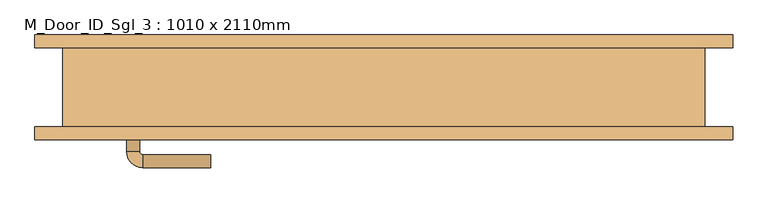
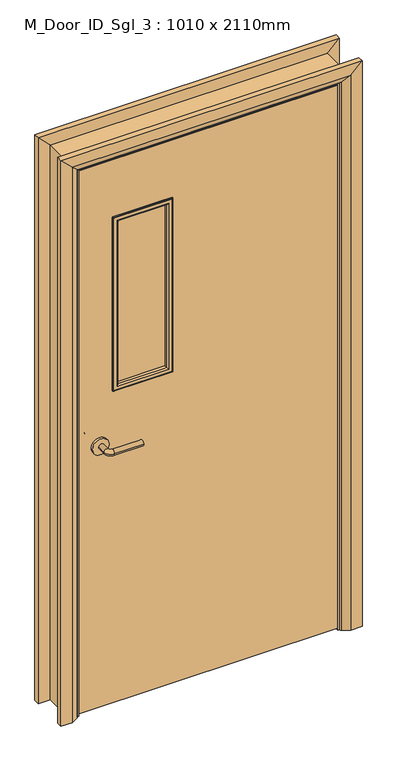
"""IFC4 building model written with IfcOpenShell, lengths in millimetres: door geometry, M_Door_ID_Sgl_3 : 1010 x 2110mm."""

import ifcopenshell
import ifcopenshell.guid

model = None  # the IFC model being written
_history = None  # IfcOwnerHistory: only IFC2X3 demands one
_inside = {}  # id of a spatial element -> (the spatial element, [elements in it])
_under = {}  # id of a project, library or spatial element -> (it, [spatial elements below it])
_declared = {}  # id of a project -> (the project, [libraries it declares])
_typed = {}  # id of a type object -> (the type object, [elements of that type])
_made_of = {}  # id of a material, layer set ... -> (it, [elements and type objects made of it])


def new_model(schema):
    """Start an empty IFC model of exactly this schema.

    Asked for "IFC4X3", IfcOpenShell would pick the latest addendum, in which some entities
    have other attributes; the version numbers below select the first issue.
    IFC2X3 requires an IfcOwnerHistory on every rooted entity: one is made here for all.
    """
    global model, _history
    if schema == "IFC4X3":
        model = ifcopenshell.file(schema_version=(4, 3, 0, 0))
    else:
        model = ifcopenshell.file(schema=schema)
    _inside.clear()
    _under.clear()
    _declared.clear()
    _typed.clear()
    _made_of.clear()
    _history = None
    if model.schema == "IFC2X3":
        org = make("IfcOrganization", Name="unknown")
        user = make(
            "IfcPersonAndOrganization",
            ThePerson=make("IfcPerson", FamilyName="unknown"),
            TheOrganization=org,
        )
        app = make(
            "IfcApplication",
            ApplicationDeveloper=org,
            Version="unknown",
            ApplicationFullName="unknown",
            ApplicationIdentifier="unknown",
        )
        _history = make(
            "IfcOwnerHistory",
            OwningUser=user,
            OwningApplication=app,
            ChangeAction="ADDED",
            CreationDate=0,
        )
    return model


def make(cls, **values):
    """One entity of the class cls with the attributes given. An attribute that is None is left unset."""
    return model.create_entity(
        cls, **{name: value for name, value in values.items() if value is not None}
    )


def rooted(cls, **values):
    """An entity with a GlobalId (a new one), such as an element, a storey or a relation."""
    return make(cls, GlobalId=ifcopenshell.guid.new(), OwnerHistory=_history, **values)


def si_unit(unit_type, name, prefix=None):
    """IfcSIUnit, for example si_unit("LENGTHUNIT", "METRE", prefix="MILLI")."""
    return make("IfcSIUnit", UnitType=unit_type, Prefix=prefix, Name=name)


def assignment(units):
    """IfcUnitAssignment: the units of a project."""
    return None if units is None else make("IfcUnitAssignment", Units=units)


def point(xyz):
    """IfcCartesianPoint."""
    return None if xyz is None else make("IfcCartesianPoint", Coordinates=xyz)


def direction(xyz):
    """IfcDirection."""
    return None if xyz is None else make("IfcDirection", DirectionRatios=xyz)


def frame(location, z_axis=None, x_axis=None):
    """IfcAxis2Placement3D, a coordinate frame: its origin and axes. An axis left out is left unset."""
    return make(
        "IfcAxis2Placement3D",
        Location=point(location),
        Axis=direction(z_axis),
        RefDirection=direction(x_axis),
    )


def frame_2d(location, x_axis=None):
    """IfcAxis2Placement2D, a coordinate frame in the plane: its origin and x axis."""
    return make(
        "IfcAxis2Placement2D", Location=point(location), RefDirection=direction(x_axis)
    )


def origin():
    """The frame at (0, 0, 0) with its axes left unset."""
    return frame((0.0, 0.0, 0.0))


def place(relative_to, where):
    """IfcLocalPlacement: puts the frame where relative to a parent placement (None: the world)."""
    return make(
        "IfcLocalPlacement", PlacementRelTo=relative_to, RelativePlacement=where
    )


def context(
    kind, dimensions, precision=None, world=None, true_north=None, identifier=None
):
    """IfcGeometricRepresentationContext, for example the 3D "Model" context."""
    return make(
        "IfcGeometricRepresentationContext",
        ContextIdentifier=identifier,
        ContextType=kind,
        CoordinateSpaceDimension=dimensions,
        Precision=precision,
        WorldCoordinateSystem=world,
        TrueNorth=true_north,
    )


def project(units=None, contexts=None):
    """IfcProject with its units and contexts."""
    return rooted(
        "IfcProject",
        Name="project",
        RepresentationContexts=contexts,
        UnitsInContext=assignment(units),
    )


def spatial(cls, under=None, at=None, **own):
    """A site, building, storey or space (cls), placed at a placement, below another one or the project."""
    s = rooted(cls, ObjectPlacement=at, **own)
    if under is not None:
        _under.setdefault(under.id(), (under, []))[1].append(s)
    return s


def polyline(points):
    """IfcPolyline through the points."""
    return make("IfcPolyline", Points=[point(p) for p in points])


def circle_curve(where, radius):
    """IfcCircle in the frame where."""
    return make("IfcCircle", Position=where, Radius=radius)


def ellipse_curve(where, semi_axis1, semi_axis2):
    """IfcEllipse in the frame where."""
    return make(
        "IfcEllipse", Position=where, SemiAxis1=semi_axis1, SemiAxis2=semi_axis2
    )


def trimmed(basis, trim1, trim2, sense, master):
    """IfcTrimmedCurve: the piece of a basis curve between two trims."""
    return make(
        "IfcTrimmedCurve",
        BasisCurve=basis,
        Trim1=trim1,
        Trim2=trim2,
        SenseAgreement=sense,
        MasterRepresentation=master,
    )


def segment(curve, same_sense, transition):
    """IfcCompositeCurveSegment."""
    return make(
        "IfcCompositeCurveSegment",
        Transition=transition,
        SameSense=same_sense,
        ParentCurve=curve,
    )


def composite_curve(segments, self_intersect=None):
    """IfcCompositeCurve: segments joined end to end."""
    return make("IfcCompositeCurve", Segments=segments, SelfIntersect=self_intersect)


def outline(outer, holes=None, kind="AREA"):
    """IfcArbitraryClosedProfileDef: a profile drawn as a closed curve; with holes, ...WithVoids."""
    if holes is None:
        return make("IfcArbitraryClosedProfileDef", ProfileType=kind, OuterCurve=outer)
    return make(
        "IfcArbitraryProfileDefWithVoids",
        ProfileType=kind,
        OuterCurve=outer,
        InnerCurves=holes,
    )


def extrude(swept, where, along, depth):
    """IfcExtrudedAreaSolid: the profile swept, set in the frame where, extruded along a direction by depth."""
    return make(
        "IfcExtrudedAreaSolid",
        SweptArea=swept,
        Position=where,
        ExtrudedDirection=direction(along),
        Depth=depth,
    )


def faces_of(points, faces, orient=None, outer=None):
    """IfcFace entities. A face is a list of loops; a loop is a list of indices into points, from 0.

    orient and outer hold one flag for each loop. By default every Orientation is true, the
    first loop of a face is its IfcFaceOuterBound and the others are IfcFaceBound.
    """
    made = []
    for i, loops in enumerate(faces):
        bounds = []
        for j, loop in enumerate(loops):
            is_outer = j == 0 if outer is None else outer[i][j]
            bounds.append(
                make(
                    "IfcFaceOuterBound" if is_outer else "IfcFaceBound",
                    Bound=make("IfcPolyLoop", Polygon=[points[k] for k in loop]),
                    Orientation=True if orient is None else orient[i][j],
                )
            )
        made.append(make("IfcFace", Bounds=bounds))
    return made


def faceted_brep(points, faces, orient=None, outer=None, voids=None):
    """IfcFacetedBrep: a solid bounded by flat faces; with voids (closed shells), ...WithVoids."""
    shared = [point(p) for p in points]
    hull = make("IfcClosedShell", CfsFaces=faces_of(shared, faces, orient, outer))
    if voids is None:
        return make("IfcFacetedBrep", Outer=hull)
    return make(
        "IfcFacetedBrepWithVoids",
        Outer=hull,
        Voids=[
            make(cls, CfsFaces=faces_of(shared, fs, o, b)) for cls, fs, o, b in voids
        ],
    )


def shape(context_of_items, identifier, shape_type, items):
    """IfcShapeRepresentation: the items that make up one representation, for example the "Body"."""
    return make(
        "IfcShapeRepresentation",
        ContextOfItems=context_of_items,
        RepresentationIdentifier=identifier,
        RepresentationType=shape_type,
        Items=items,
    )


def source(mapping_origin, context_of_items, identifier, shape_type, items):
    """IfcRepresentationMap: a shape defined once, which mapped items show again and again."""
    return make(
        "IfcRepresentationMap",
        MappingOrigin=mapping_origin,
        MappedRepresentation=shape(context_of_items, identifier, shape_type, items),
    )


def transform(
    local_origin,
    x_axis=None,
    y_axis=None,
    z_axis=None,
    scale=None,
    scale2=None,
    scale3=None,
    uniform=True,
):
    """IfcCartesianTransformationOperator3D, or its non-uniform kind. x_axis, y_axis, z_axis: its Axis1, 2, 3."""
    if uniform:
        return make(
            "IfcCartesianTransformationOperator3D",
            Axis1=direction(x_axis),
            Axis2=direction(y_axis),
            LocalOrigin=point(local_origin),
            Scale=scale,
            Axis3=direction(z_axis),
        )
    return make(
        "IfcCartesianTransformationOperator3DnonUniform",
        Axis1=direction(x_axis),
        Axis2=direction(y_axis),
        LocalOrigin=point(local_origin),
        Scale=scale,
        Axis3=direction(z_axis),
        Scale2=scale2,
        Scale3=scale3,
    )


def mapped(mapping_source, mapping_target):
    """IfcMappedItem: shows the shape of a source again, moved by a transform."""
    return make(
        "IfcMappedItem", MappingSource=mapping_source, MappingTarget=mapping_target
    )


def made_of(thing, what):
    """Note that an element or type object is made of a material, layer set ...; save() writes the relation."""
    if what is not None:
        _made_of.setdefault(what.id(), (what, []))[1].append(thing)
    return thing


def element(
    cls,
    number,
    at=None,
    inside=None,
    cuts=None,
    type_object=None,
    material=None,
    context=None,
    identifier="Body",
    shape_type=None,
    held_by="IfcProductDefinitionShape",
    body=None,
    shapes=None,
    **own,
):
    """One element of the class cls, such as IfcWall. Its Tag is "e" and its number.

    at: its placement. inside: the storey or other place that contains it. cuts: it is an
    opening in that element (IfcRelVoidsElement). A single representation is given by context,
    identifier, shape_type and body (its items); several are given by shapes. held_by: the class
    of the entity that holds the representations. save() writes the other relations.
    """
    e = rooted(cls, Tag="e%d" % number, ObjectPlacement=at, **own)
    if body is not None:
        shapes = [shape(context, identifier, shape_type, body)]
    if shapes is not None:
        e.Representation = make(held_by, Representations=shapes)
    if inside is not None:
        _inside.setdefault(inside.id(), (inside, []))[1].append(e)
    if cuts is not None:
        rooted(
            "IfcRelVoidsElement", RelatingBuildingElement=cuts, RelatedOpeningElement=e
        )
    if type_object is not None:
        _typed.setdefault(type_object.id(), (type_object, []))[1].append(e)
    return made_of(e, material)


def aggregate(whole, parts):
    """IfcRelAggregates: a whole, such as a stair, and the parts it consists of."""
    return rooted("IfcRelAggregates", RelatingObject=whole, RelatedObjects=parts)


def save(model, path):
    """Write the relations noted so far, then the file.

    IfcRelAggregates (storeys below a building ...), IfcRelContainedInSpatialStructure (elements
    in a storey), IfcRelDefinesByType, IfcRelAssociatesMaterial and IfcRelDeclares: one each for
    every whole, place, type object, material and project.
    """
    for whole, parts in _under.values():
        aggregate(whole, parts)
    for where, things in _inside.values():
        rooted(
            "IfcRelContainedInSpatialStructure",
            RelatedElements=things,
            RelatingStructure=where,
        )
    for kind, things in _typed.values():
        rooted("IfcRelDefinesByType", RelatedObjects=things, RelatingType=kind)
    for what, things in _made_of.values():
        rooted("IfcRelAssociatesMaterial", RelatedObjects=things, RelatingMaterial=what)
    for by, libraries in _declared.values():
        rooted("IfcRelDeclares", RelatingContext=by, RelatedDefinitions=libraries)
    model.write(path)


def plane_surface(at):
    """IfcPlane: the flat surface through the origin of the frame at, square to its z axis."""
    return make("IfcPlane", Position=at)


def cylinder_surface(at, radius):
    """IfcCylindricalSurface: all points at the distance radius from the z axis of the frame at."""
    return make("IfcCylindricalSurface", Position=at, Radius=radius)


def revolved_surface(curve, axis_point, axis_direction):
    """IfcSurfaceOfRevolution: the curve turned about the line through axis_point along axis_direction."""
    return make(
        "IfcSurfaceOfRevolution",
        SweptCurve=make("IfcArbitraryOpenProfileDef", ProfileType="CURVE", Curve=curve),
        AxisPosition=make("IfcAxis1Placement", Location=point(axis_point), Axis=direction(axis_direction)),
    )


def advanced_brep(points, edges, surfaces, faces):
    """IfcAdvancedBrep: a solid bounded by faces that lie on surfaces and meet in shared edges.

    An edge is (start, end): straight between two places in points (the first is 0);
    or (start, end, curve); or (start, end, curve, False) where it runs against its curve.
    A face is (place in surfaces, loops), or (place, loops, False) where it looks against
    its surface's normal. A loop lists edges by number (the first is 1), with a minus sign
    where the edge is run from its end to its start. The first loop is the outer one.
    """
    corners = [point(p) for p in points]
    vertices = [make("IfcVertexPoint", VertexGeometry=c) for c in corners]
    made = []
    for start, end, *more in edges:
        made.append(
            make(
                "IfcEdgeCurve",
                EdgeStart=vertices[start],
                EdgeEnd=vertices[end],
                EdgeGeometry=more[0] if more else make("IfcPolyline", Points=[corners[start], corners[end]]),
                SameSense=more[1] if len(more) > 1 else True,
            )
        )
    hull = []
    for where, loops, *sense in faces:
        bounds = []
        for j, loop in enumerate(loops):
            ring = [make("IfcOrientedEdge", EdgeElement=made[abs(k) - 1], Orientation=k > 0) for k in loop]
            bounds.append(
                make(
                    "IfcFaceOuterBound" if j == 0 else "IfcFaceBound",
                    Bound=make("IfcEdgeLoop", EdgeList=ring),
                    Orientation=True,
                )
            )
        hull.append(make("IfcAdvancedFace", Bounds=bounds, FaceSurface=surfaces[where], SameSense=sense[0] if sense else True))
    return make("IfcAdvancedBrep", Outer=make("IfcClosedShell", CfsFaces=hull))


def m_door_id_sgl_3_1010_x_2110mm_404dcb10(model_context):
    return source(origin(), model_context, "Body", "SolidModel", [
        advanced_brep(
        [(-398.0, -15.0, 1000.0), (-378.0, -15.0, 1000.0), (-398.0, 15.0, 1000.0), (-378.0, 15.0, 1000.0), (-373.0, 20.0, 1000.0), (-373.0, 40.0, 1000.0), (-268.0, 40.0, 1000.0), (-268.0, 20.0, 1000.0)],
        [
            (0, 1, circle_curve(frame((-388.0, -15.0, 1000.0), z_axis=(0.0, -1.0, 0.0), x_axis=(1.0, 0.0, 0.0)), 10.0)),
            (1, 0, circle_curve(frame((-388.0, -15.0, 1000.0), z_axis=(0.0, -1.0, 0.0), x_axis=(1.0, 0.0, 0.0)), 10.0)),
            (0, 2),
            (2, 3, circle_curve(frame((-388.0, 15.0, 1000.0), z_axis=(0.0, -1.0, 0.0), x_axis=(1.0, 0.0, 0.0)), 10.0)),
            (3, 1),
            (3, 2, circle_curve(frame((-388.0, 15.0, 1000.0), z_axis=(0.0, -1.0, 0.0), x_axis=(1.0, 0.0, 0.0)), 10.0)),
            (4, 3, circle_curve(frame((-373.0, 15.0, 1000.0), z_axis=(0.0, 0.0, 1.0), x_axis=(-1.0, 0.0, 0.0)), 5.0)),
            (2, 5, circle_curve(frame((-373.0, 15.0, 1000.0), z_axis=(0.0, 0.0, -1.0), x_axis=(-1.0, 0.0, 0.0)), 25.0)),
            (5, 4, circle_curve(frame((-373.0, 30.0, 1000.0), z_axis=(-1.0, 0.0, 0.0), x_axis=(0.0, -1.0, 0.0)), 10.0)),
            (4, 5, circle_curve(frame((-373.0, 30.0, 1000.0), z_axis=(-1.0, 0.0, 0.0), x_axis=(0.0, -1.0, 0.0)), 10.0)),
            (6, 7, circle_curve(frame((-268.0, 30.0, 1000.0), z_axis=(1.0, 0.0, 0.0), x_axis=(0.0, -1.0, 0.0)), 10.0)),
            (7, 6, circle_curve(frame((-268.0, 30.0, 1000.0), z_axis=(1.0, 0.0, 0.0), x_axis=(0.0, -1.0, 0.0)), 10.0)),
            (5, 6),
            (7, 4),
        ],
        [
            plane_surface(frame((-388.0, -15.0, 1000.0), z_axis=(0.0, -1.0, 0.0), x_axis=(0.0, 0.0, 1.0))),
            cylinder_surface(frame((-388.0, -15.0, 1000.0), z_axis=(0.0, -1.0, 0.0), x_axis=(1.0, 0.0, 0.0)), 10.0),
            revolved_surface(trimmed(ellipse_curve(frame((-388.0, 15.0, 1000.0), z_axis=(0.0, -1.0, 0.0), x_axis=(1.0, 0.0, 0.0)), 10.0, 10.0), [point((-398.0, 15.0, 1000.0))], [point((-378.0, 15.0, 1000.0))], True, "CARTESIAN"), (-373.0, 15.0, 1000.0), (0.0, 0.0, -1.0)),
            revolved_surface(trimmed(ellipse_curve(frame((-388.0, 15.0, 1000.0), z_axis=(0.0, -1.0, 0.0), x_axis=(1.0, 0.0, 0.0)), 10.0, 10.0), [point((-378.0, 15.0, 1000.0))], [point((-398.0, 15.0, 1000.0))], True, "CARTESIAN"), (-373.0, 15.0, 1000.0), (0.0, 0.0, -1.0)),
            plane_surface(frame((-268.0, 30.0, 1000.0), z_axis=(1.0, 0.0, 0.0), x_axis=(0.0, 0.0, 1.0))),
            cylinder_surface(frame((-373.0, 30.0, 1000.0), z_axis=(-1.0, 0.0, 0.0), x_axis=(0.0, -1.0, 0.0)), 10.0),
        ],
        [
            (0, [[1, 2]]),
            (1, [[-1, 3, 4, 5]]),
            (1, [[-2, -5, 6, -3]]),
            (2, [[7, -4, 8, 9]]),
            (3, [[-8, -6, -7, 10]]),
            (4, [[11, 12]]),
            (5, [[-9, 13, -12, 14]]),
            (5, [[-10, -14, -11, -13]]),
        ],
    ),
        extrude(outline(composite_curve([segment(trimmed(circle_curve(frame_2d((1000.0, -390.5)), 30.0), [point((1000.0, -420.5))], [point((1000.0, -360.5))], False, "CARTESIAN"), True, "CONTINUOUS"), segment(trimmed(circle_curve(frame_2d((1000.0, -390.5)), 30.0), [point((1000.0, -360.5))], [point((1000.0, -420.5))], False, "CARTESIAN"), True, "CONTINUOUS")], self_intersect=False)), frame((0.0, -23.0, 0.0), z_axis=(0.0, 1.0, 0.0), x_axis=(0.0, 0.0, 1.0)), (0.0, 0.0, 1.0), 8.0),
        advanced_brep(
        [(-398.0, -69.0, 1000.0), (-378.0, -69.0, 1000.0), (-378.0, -99.0, 1000.0), (-398.0, -99.0, 1000.0), (-373.0, -104.0, 1000.0), (-373.0, -124.0, 1000.0), (-268.0, -124.0, 1000.0), (-268.0, -104.0, 1000.0)],
        [
            (0, 1, circle_curve(frame((-388.0, -69.0, 1000.0), z_axis=(0.0, 1.0, 0.0), x_axis=(1.0, 0.0, 0.0)), 10.0)),
            (1, 0, circle_curve(frame((-388.0, -69.0, 1000.0), z_axis=(0.0, 1.0, 0.0), x_axis=(1.0, 0.0, 0.0)), 10.0)),
            (1, 2),
            (2, 3, circle_curve(frame((-388.0, -99.0, 1000.0), z_axis=(0.0, 1.0, 0.0), x_axis=(1.0, 0.0, 0.0)), 10.0)),
            (3, 0),
            (3, 2, circle_curve(frame((-388.0, -99.0, 1000.0), z_axis=(0.0, 1.0, 0.0), x_axis=(1.0, 0.0, 0.0)), 10.0)),
            (4, 5, circle_curve(frame((-373.0, -114.0, 1000.0), z_axis=(-1.0, 0.0, 0.0), x_axis=(0.0, 1.0, 0.0)), 10.0)),
            (5, 3, circle_curve(frame((-373.0, -99.0, 1000.0), z_axis=(0.0, 0.0, -1.0), x_axis=(-1.0, 0.0, 0.0)), 25.0)),
            (2, 4, circle_curve(frame((-373.0, -99.0, 1000.0), z_axis=(0.0, 0.0, 1.0), x_axis=(-1.0, 0.0, 0.0)), 5.0)),
            (5, 4, circle_curve(frame((-373.0, -114.0, 1000.0), z_axis=(-1.0, 0.0, 0.0), x_axis=(0.0, 1.0, 0.0)), 10.0)),
            (6, 7, circle_curve(frame((-268.0, -114.0, 1000.0), z_axis=(1.0, 0.0, 0.0), x_axis=(0.0, 1.0, 0.0)), 10.0)),
            (7, 6, circle_curve(frame((-268.0, -114.0, 1000.0), z_axis=(1.0, 0.0, 0.0), x_axis=(0.0, 1.0, 0.0)), 10.0)),
            (4, 7),
            (6, 5),
        ],
        [
            plane_surface(frame((-388.0, -69.0, 1000.0), z_axis=(0.0, 1.0, 0.0), x_axis=(0.0, 0.0, 1.0))),
            cylinder_surface(frame((-388.0, -69.0, 1000.0), z_axis=(0.0, 1.0, 0.0), x_axis=(1.0, 0.0, 0.0)), 10.0),
            revolved_surface(trimmed(ellipse_curve(frame((-388.0, -99.0, 1000.0), z_axis=(0.0, -1.0, 0.0), x_axis=(1.0, 0.0, 0.0)), 10.0, 10.0), [point((-398.0, -99.0, 1000.0))], [point((-378.0, -99.0, 1000.0))], True, "CARTESIAN"), (-373.0, -99.0, 1000.0), (0.0, 0.0, -1.0)),
            revolved_surface(trimmed(ellipse_curve(frame((-388.0, -99.0, 1000.0), z_axis=(0.0, -1.0, 0.0), x_axis=(1.0, 0.0, 0.0)), 10.0, 10.0), [point((-378.0, -99.0, 1000.0))], [point((-398.0, -99.0, 1000.0))], True, "CARTESIAN"), (-373.0, -99.0, 1000.0), (0.0, 0.0, -1.0)),
            plane_surface(frame((-268.0, -114.0, 1000.0), z_axis=(1.0, 0.0, 0.0), x_axis=(0.0, 0.0, 1.0))),
            cylinder_surface(frame((-373.0, -114.0, 1000.0), z_axis=(-1.0, 0.0, 0.0), x_axis=(0.0, 1.0, 0.0)), 10.0),
        ],
        [
            (0, [[1, 2]]),
            (1, [[3, 4, 5, -2]]),
            (1, [[-5, 6, -3, -1]]),
            (2, [[7, 8, -4, 9]]),
            (3, [[10, -9, -6, -8]]),
            (4, [[11, 12]]),
            (5, [[13, -11, 14, -7]]),
            (5, [[-14, -12, -13, -10]]),
        ],
    ),
        extrude(outline(composite_curve([segment(trimmed(circle_curve(frame_2d((1000.0, -390.5)), 30.0), [point((1000.0, -420.5))], [point((1000.0, -360.5))], False, "CARTESIAN"), True, "CONTINUOUS"), segment(trimmed(circle_curve(frame_2d((1000.0, -390.5)), 30.0), [point((1000.0, -360.5))], [point((1000.0, -420.5))], False, "CARTESIAN"), True, "CONTINUOUS")], self_intersect=False)), frame((0.0, -69.0, 0.0), z_axis=(0.0, 1.0, 0.0), x_axis=(0.0, 0.0, 1.0)), (0.0, 0.0, 1.0), 8.0),
        extrude(outline(polyline([(2068.0, -463.0), (8.0, -463.0), (8.0, 463.0), (2068.0, 463.0), (2068.0, -463.0)]), holes=[polyline([(1843.0, -138.0), (1200.0, -138.0), (1200.0, -338.0), (1843.0, -338.0), (1843.0, -138.0)])]), frame((0.0, -61.0, 0.0), z_axis=(0.0, 1.0, 0.0), x_axis=(0.0, 0.0, 1.0)), (0.0, 0.0, 1.0), 38.0),
        faceted_brep([(-465.0, -61.0, 0.0), (-497.0, -61.0, 0.0), (-497.0, 61.0, 0.0), (-465.0, 61.0, 0.0), (-465.0, 61.0, 2070.0), (-465.0, -61.0, 2070.0), (-497.0, 61.0, 2102.0), (-497.0, -61.0, 2102.0), (465.0, -61.0, 0.0), (465.0, 61.0, 0.0), (497.0, 61.0, 0.0), (497.0, -61.0, 0.0), (465.0, -61.0, 2070.0), (497.0, -61.0, 2102.0), (497.0, 61.0, 2102.0), (465.0, 61.0, 2070.0)], [[[0, 1, 2, 3]], [[3, 4, 5, 0]], [[2, 6, 4, 3]], [[1, 7, 6, 2]], [[0, 5, 7, 1]], [[8, 9, 10, 11]], [[12, 8, 11, 13]], [[13, 11, 10, 14]], [[14, 10, 9, 15]], [[15, 9, 8, 12]], [[4, 15, 12, 5]], [[6, 14, 15, 4]], [[7, 13, 14, 6]], [[5, 12, 13, 7]]]),
        advanced_brep(
        [(-540.0, 81.0, 0.0), (-500.0, 81.0, 0.0), (-474.0, 67.0, 0.0), (-470.0, 61.0, 0.0), (-540.0, 61.0, 0.0), (-540.0, 61.0, 2145.0), (-540.0, 81.0, 2145.0), (-470.0, 61.0, 2075.0), (-474.0, 67.0, 2079.0), (-500.0, 81.0, 2105.0), (540.0, 81.0, 0.0), (540.0, 61.0, 0.0), (470.0, 61.0, 0.0), (474.0, 67.0, 0.0), (500.0, 81.0, 0.0), (540.0, 81.0, 2145.0), (500.0, 81.0, 2105.0), (474.0, 67.0, 2079.0), (470.0, 61.0, 2075.0), (540.0, 61.0, 2145.0)],
        [
            (0, 1),
            (1, 2),
            (2, 3, circle_curve(frame((-478.0, 60.0, 0.0), z_axis=(0.0, 0.0, -1.0), x_axis=(-1.0, 0.0, 0.0)), 8.0622577)),
            (3, 4),
            (4, 0),
            (4, 5),
            (5, 6),
            (6, 0),
            (3, 7),
            (7, 5),
            (2, 8),
            (8, 7, ellipse_curve(frame((-478.0, 60.0, 2083.0), z_axis=(-0.7071067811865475, 0.0, -0.7071067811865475), x_axis=(0.7071067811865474, 0.0, -0.7071067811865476)), 11.4017543, 8.0622577)),
            (1, 9),
            (9, 8),
            (6, 9),
            (10, 11),
            (11, 12),
            (12, 13, circle_curve(frame((478.0, 60.0, 0.0), z_axis=(0.0, 0.0, -1.0), x_axis=(1.0, 0.0, 0.0)), 8.0622577)),
            (13, 14),
            (14, 10),
            (15, 10),
            (14, 16),
            (16, 15),
            (13, 17),
            (17, 16),
            (12, 18),
            (18, 17, ellipse_curve(frame((478.0, 60.0, 2083.0), z_axis=(0.7071067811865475, 0.0, -0.7071067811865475), x_axis=(0.7071067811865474, 0.0, 0.7071067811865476)), 11.4017543, 8.0622577)),
            (11, 19),
            (19, 18),
            (15, 19),
            (5, 19),
            (15, 6),
            (7, 18),
            (8, 17),
            (9, 16),
        ],
        [
            plane_surface(frame((-470.0, 133.8010989, 0.0), z_axis=(0.0, 0.0, -1.0), x_axis=(1.0, 0.0, 0.0))),
            plane_surface(frame((-540.0, 81.0, 0.0), z_axis=(-1.0, 0.0, 0.0), x_axis=(0.0, 0.0, 1.0))),
            plane_surface(frame((-540.0, 61.0, 0.0), z_axis=(0.0, -1.0, 0.0), x_axis=(0.0, 0.0, 1.0))),
            cylinder_surface(frame((-478.0, 60.0, 0.0), z_axis=(0.0, 0.0, -1.0), x_axis=(-1.0, 0.0, 0.0)), 8.0622577),
            plane_surface(frame((-474.0, 67.0, 0.0), z_axis=(0.4740998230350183, 0.8804710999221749, 0.0), x_axis=(0.0, 0.0, 1.0))),
            plane_surface(frame((-500.0, 81.0, 0.0), z_axis=(0.0, 1.0, 0.0), x_axis=(0.0, 0.0, 1.0))),
            plane_surface(frame((470.0, 133.8010989, 0.0), z_axis=(0.0, 0.0, -1.0), x_axis=(-1.0, 0.0, 0.0))),
            plane_surface(frame((500.0, 81.0, 2105.0), z_axis=(0.0, 1.0, 0.0), x_axis=(0.0, 0.0, -1.0))),
            plane_surface(frame((474.0, 67.0, 2079.0), z_axis=(-0.4740998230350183, 0.8804710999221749, 0.0), x_axis=(0.0, 0.0, -1.0))),
            cylinder_surface(frame((478.0, 60.0, 2075.0), z_axis=(0.0, 0.0, 1.0), x_axis=(1.0, 0.0, 0.0)), 8.0622577),
            plane_surface(frame((540.0, 61.0, 2145.0), z_axis=(0.0, -1.0, 0.0), x_axis=(0.0, 0.0, -1.0))),
            plane_surface(frame((540.0, 81.0, 2145.0), z_axis=(1.0, 0.0, 0.0), x_axis=(0.0, 0.0, -1.0))),
            plane_surface(frame((-540.0, 81.0, 2145.0), z_axis=(0.0, 0.0, 1.0), x_axis=(1.0, 0.0, 0.0))),
            plane_surface(frame((-540.0, 61.0, 2145.0), z_axis=(0.0, -1.0, 0.0), x_axis=(1.0, 0.0, 0.0))),
            cylinder_surface(frame((-470.0, 60.0, 2083.0), z_axis=(-1.0, 0.0, 0.0), x_axis=(0.0, 0.0, 1.0)), 8.0622577),
            plane_surface(frame((-474.0, 67.0, 2079.0), z_axis=(0.0, 0.8804710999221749, -0.4740998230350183), x_axis=(1.0, 0.0, 0.0))),
            plane_surface(frame((-500.0, 81.0, 2105.0), z_axis=(0.0, 1.0, 0.0), x_axis=(1.0, 0.0, 0.0))),
        ],
        [
            (0, [[1, 2, 3, 4, 5]]),
            (1, [[6, 7, 8, -5]]),
            (2, [[9, 10, -6, -4]]),
            (3, [[11, 12, -9, -3]]),
            (4, [[13, 14, -11, -2]]),
            (5, [[-8, 15, -13, -1]]),
            (6, [[16, 17, 18, 19, 20]]),
            (7, [[21, -20, 22, 23]]),
            (8, [[-22, -19, 24, 25]]),
            (9, [[-24, -18, 26, 27]]),
            (10, [[-26, -17, 28, 29]]),
            (11, [[-28, -16, -21, 30]]),
            (12, [[31, -30, 32, -7]]),
            (13, [[33, -29, -31, -10]]),
            (14, [[34, -27, -33, -12]]),
            (15, [[35, -25, -34, -14]]),
            (16, [[-32, -23, -35, -15]]),
        ],
    ),
        advanced_brep(
        [(-540.0, -81.0, 0.0), (-540.0, -61.0, 0.0), (-470.0, -61.0, 0.0), (-474.0, -67.0, 0.0), (-500.0, -81.0, 0.0), (-500.0, -81.0, 2105.0), (-540.0, -81.0, 2145.0), (-474.0, -67.0, 2079.0), (-470.0, -61.0, 2075.0), (-540.0, -61.0, 2145.0), (540.0, -81.0, 0.0), (500.0, -81.0, 0.0), (474.0, -67.0, 0.0), (470.0, -61.0, 0.0), (540.0, -61.0, 0.0), (540.0, -81.0, 2145.0), (540.0, -61.0, 2145.0), (470.0, -61.0, 2075.0), (474.0, -67.0, 2079.0), (500.0, -81.0, 2105.0)],
        [
            (0, 1),
            (1, 2),
            (2, 3, circle_curve(frame((-478.0, -60.0, 0.0), z_axis=(0.0, 0.0, -1.0), x_axis=(-1.0, 0.0, 0.0)), 8.0622577)),
            (3, 4),
            (4, 0),
            (4, 5),
            (5, 6),
            (6, 0),
            (3, 7),
            (7, 5),
            (2, 8),
            (8, 7, ellipse_curve(frame((-478.0, -60.0, 2083.0), z_axis=(-0.7071067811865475, 0.0, -0.7071067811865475), x_axis=(0.7071067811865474, 0.0, -0.7071067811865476)), 11.4017543, 8.0622577)),
            (1, 9),
            (9, 8),
            (6, 9),
            (10, 11),
            (11, 12),
            (12, 13, circle_curve(frame((478.0, -60.0, 0.0), z_axis=(0.0, 0.0, -1.0), x_axis=(1.0, 0.0, 0.0)), 8.0622577)),
            (13, 14),
            (14, 10),
            (15, 10),
            (14, 16),
            (16, 15),
            (13, 17),
            (17, 16),
            (12, 18),
            (18, 17, ellipse_curve(frame((478.0, -60.0, 2083.0), z_axis=(0.7071067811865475, 0.0, -0.7071067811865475), x_axis=(0.7071067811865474, 0.0, 0.7071067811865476)), 11.4017543, 8.0622577)),
            (11, 19),
            (19, 18),
            (15, 19),
            (5, 19),
            (15, 6),
            (7, 18),
            (8, 17),
            (9, 16),
        ],
        [
            plane_surface(frame((-470.0, 11.8010989, 0.0), z_axis=(0.0, 0.0, -1.0), x_axis=(1.0, 0.0, 0.0))),
            plane_surface(frame((-540.0, -81.0, 0.0), z_axis=(0.0, -1.0, 0.0), x_axis=(0.0, 0.0, 1.0))),
            plane_surface(frame((-500.0, -81.0, 0.0), z_axis=(0.4740998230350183, -0.8804710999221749, 0.0), x_axis=(0.0, 0.0, 1.0))),
            cylinder_surface(frame((-478.0, -60.0, 0.0), z_axis=(0.0, 0.0, -1.0), x_axis=(-1.0, 0.0, 0.0)), 8.0622577),
            plane_surface(frame((-470.0, -61.0, 0.0), z_axis=(0.0, 1.0, 0.0), x_axis=(0.0, 0.0, 1.0))),
            plane_surface(frame((-540.0, -61.0, 0.0), z_axis=(-1.0, 0.0, 0.0), x_axis=(0.0, 0.0, 1.0))),
            plane_surface(frame((470.0, 11.8010989, 0.0), z_axis=(0.0, 0.0, -1.0), x_axis=(-1.0, 0.0, 0.0))),
            plane_surface(frame((540.0, -61.0, 2145.0), z_axis=(1.0, 0.0, 0.0), x_axis=(0.0, 0.0, -1.0))),
            plane_surface(frame((470.0, -61.0, 2075.0), z_axis=(0.0, 1.0, 0.0), x_axis=(0.0, 0.0, -1.0))),
            cylinder_surface(frame((478.0, -60.0, 2075.0), z_axis=(0.0, 0.0, 1.0), x_axis=(1.0, 0.0, 0.0)), 8.0622577),
            plane_surface(frame((500.0, -81.0, 2105.0), z_axis=(-0.4740998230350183, -0.8804710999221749, 0.0), x_axis=(0.0, 0.0, -1.0))),
            plane_surface(frame((540.0, -81.0, 2145.0), z_axis=(0.0, -1.0, 0.0), x_axis=(0.0, 0.0, -1.0))),
            plane_surface(frame((-540.0, -81.0, 2145.0), z_axis=(0.0, -1.0, 0.0), x_axis=(1.0, 0.0, 0.0))),
            plane_surface(frame((-500.0, -81.0, 2105.0), z_axis=(0.0, -0.8804710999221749, -0.4740998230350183), x_axis=(1.0, 0.0, 0.0))),
            cylinder_surface(frame((-470.0, -60.0, 2083.0), z_axis=(-1.0, 0.0, 0.0), x_axis=(0.0, 0.0, 1.0)), 8.0622577),
            plane_surface(frame((-470.0, -61.0, 2075.0), z_axis=(0.0, 1.0, 0.0), x_axis=(1.0, 0.0, 0.0))),
            plane_surface(frame((-540.0, -61.0, 2145.0), z_axis=(0.0, 0.0, 1.0), x_axis=(1.0, 0.0, 0.0))),
        ],
        [
            (0, [[1, 2, 3, 4, 5]]),
            (1, [[6, 7, 8, -5]]),
            (2, [[9, 10, -6, -4]]),
            (3, [[11, 12, -9, -3]]),
            (4, [[13, 14, -11, -2]]),
            (5, [[-8, 15, -13, -1]]),
            (6, [[16, 17, 18, 19, 20]]),
            (7, [[21, -20, 22, 23]]),
            (8, [[-22, -19, 24, 25]]),
            (9, [[-24, -18, 26, 27]]),
            (10, [[-26, -17, 28, 29]]),
            (11, [[-28, -16, -21, 30]]),
            (12, [[31, -30, 32, -7]]),
            (13, [[33, -29, -31, -10]]),
            (14, [[34, -27, -33, -12]]),
            (15, [[35, -25, -34, -14]]),
            (16, [[-32, -23, -35, -15]]),
        ],
    ),
        extrude(outline(polyline([(0.0, -446.0), (2051.0, -446.0), (2051.0, 446.0), (0.0, 446.0), (0.0, 465.0), (2070.0, 465.0), (2070.0, -465.0), (0.0, -465.0), (0.0, -446.0)])), frame((0.0, -21.0, 0.0), z_axis=(0.0, 1.0, 0.0), x_axis=(0.0, 0.0, 1.0)), (0.0, 0.0, 1.0), 32.0),
        advanced_brep(
        [(-130.0, -65.0, 1851.0), (-130.0, -65.0, 1192.0), (-130.0, -61.0, 1192.0), (-130.0, -61.0, 1851.0), (-132.0, -67.0, 1849.0), (-132.0, -67.0, 1194.0), (-150.0, -62.0, 1831.0), (-150.0, -62.0, 1212.0), (-145.0, -67.0, 1207.0), (-145.0, -67.0, 1836.0), (-150.0, -51.0, 1831.0), (-150.0, -51.0, 1212.0), (-138.0, -61.0, 1843.0), (-138.0, -61.0, 1200.0), (-138.0, -51.0, 1200.0), (-138.0, -51.0, 1843.0), (-346.0, -65.0, 1192.0), (-346.0, -61.0, 1192.0), (-344.0, -67.0, 1194.0), (-326.0, -62.0, 1212.0), (-331.0, -67.0, 1207.0), (-326.0, -51.0, 1212.0), (-338.0, -61.0, 1200.0), (-338.0, -51.0, 1200.0), (-346.0, -65.0, 1851.0), (-346.0, -61.0, 1851.0), (-344.0, -67.0, 1849.0), (-326.0, -62.0, 1831.0), (-331.0, -67.0, 1836.0), (-326.0, -51.0, 1831.0), (-338.0, -61.0, 1843.0), (-338.0, -51.0, 1843.0)],
        [
            (0, 1),
            (1, 2),
            (2, 3),
            (3, 0),
            (4, 5),
            (5, 1, ellipse_curve(frame((-132.0, -65.0, 1194.0), z_axis=(0.7071067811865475, 0.0, 0.7071067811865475), x_axis=(-0.7071067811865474, 0.0, 0.7071067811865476)), 2.8284271, 2.0)),
            (0, 4, ellipse_curve(frame((-132.0, -65.0, 1849.0), z_axis=(0.7071067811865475, 0.0, -0.7071067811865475), x_axis=(0.7071067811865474, 0.0, 0.7071067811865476)), 2.8284271, 2.0)),
            (6, 7),
            (7, 8, ellipse_curve(frame((-145.0, -62.0, 1207.0), z_axis=(0.7071067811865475, 0.0, 0.7071067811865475), x_axis=(-0.7071067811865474, 0.0, 0.7071067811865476)), 7.0710678, 5.0)),
            (8, 9),
            (9, 6, ellipse_curve(frame((-145.0, -62.0, 1836.0), z_axis=(0.7071067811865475, 0.0, -0.7071067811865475), x_axis=(0.7071067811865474, 0.0, 0.7071067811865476)), 7.0710678, 5.0)),
            (10, 11),
            (11, 7),
            (6, 10),
            (12, 13),
            (13, 14),
            (14, 15),
            (15, 12),
            (1, 16),
            (16, 17),
            (17, 2),
            (5, 18),
            (18, 16, ellipse_curve(frame((-344.0, -65.0, 1194.0), z_axis=(0.7071067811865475, 0.0, -0.7071067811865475), x_axis=(0.7071067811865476, 0.0, 0.7071067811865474)), 2.8284271, 2.0)),
            (7, 19),
            (19, 20, ellipse_curve(frame((-331.0, -62.0, 1207.0), z_axis=(0.7071067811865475, 0.0, -0.7071067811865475), x_axis=(0.7071067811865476, 0.0, 0.7071067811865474)), 7.0710678, 5.0)),
            (20, 8),
            (11, 21),
            (21, 19),
            (13, 22),
            (22, 23),
            (23, 14),
            (16, 24),
            (24, 25),
            (25, 17),
            (18, 26),
            (26, 24, ellipse_curve(frame((-344.0, -65.0, 1849.0), z_axis=(-0.7071067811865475, 0.0, -0.7071067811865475), x_axis=(0.7071067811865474, 0.0, -0.7071067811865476)), 2.8284271, 2.0)),
            (19, 27),
            (27, 28, ellipse_curve(frame((-331.0, -62.0, 1836.0), z_axis=(-0.7071067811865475, 0.0, -0.7071067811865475), x_axis=(0.7071067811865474, 0.0, -0.7071067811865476)), 7.0710678, 5.0)),
            (28, 20),
            (21, 29),
            (29, 27),
            (22, 30),
            (30, 31),
            (31, 23),
            (24, 0),
            (3, 25),
            (26, 4),
            (28, 9),
            (27, 6),
            (29, 10),
            (31, 15),
            (30, 12),
        ],
        [
            plane_surface(frame((-130.0, -61.0, 1851.0), z_axis=(1.0, 0.0, 0.0), x_axis=(0.0, 0.0, -1.0))),
            cylinder_surface(frame((-132.0, -65.0, 1843.0), z_axis=(0.0, 0.0, 1.0), x_axis=(1.0, 0.0, 0.0)), 2.0),
            cylinder_surface(frame((-145.0, -62.0, 1843.0), z_axis=(0.0, 0.0, 1.0), x_axis=(1.0, 0.0, 0.0)), 5.0),
            plane_surface(frame((-150.0, -62.0, 1831.0), z_axis=(-1.0, 0.0, 0.0), x_axis=(0.0, 0.0, -1.0))),
            plane_surface(frame((-138.0, -51.0, 1843.0), z_axis=(1.0, 0.0, 0.0), x_axis=(0.0, 0.0, -1.0))),
            plane_surface(frame((-130.0, -61.0, 1192.0), z_axis=(0.0, 0.0, -1.0), x_axis=(-1.0, 0.0, 0.0))),
            cylinder_surface(frame((-138.0, -65.0, 1194.0), z_axis=(1.0, 0.0, 0.0), x_axis=(0.0, 0.0, -1.0)), 2.0),
            cylinder_surface(frame((-138.0, -62.0, 1207.0), z_axis=(1.0, 0.0, 0.0), x_axis=(0.0, 0.0, -1.0)), 5.0),
            plane_surface(frame((-150.0, -62.0, 1212.0), z_axis=(0.0, 0.0, 1.0), x_axis=(-1.0, 0.0, 0.0))),
            plane_surface(frame((-138.0, -51.0, 1200.0), z_axis=(0.0, 0.0, -1.0), x_axis=(-1.0, 0.0, 0.0))),
            plane_surface(frame((-346.0, -61.0, 1192.0), z_axis=(-1.0, 0.0, 0.0), x_axis=(0.0, 0.0, 1.0))),
            cylinder_surface(frame((-344.0, -65.0, 1200.0), z_axis=(0.0, 0.0, -1.0), x_axis=(-1.0, 0.0, 0.0)), 2.0),
            cylinder_surface(frame((-331.0, -62.0, 1200.0), z_axis=(0.0, 0.0, -1.0), x_axis=(-1.0, 0.0, 0.0)), 5.0),
            plane_surface(frame((-326.0, -62.0, 1212.0), z_axis=(1.0, 0.0, 0.0), x_axis=(0.0, 0.0, 1.0))),
            plane_surface(frame((-338.0, -51.0, 1200.0), z_axis=(-1.0, 0.0, 0.0), x_axis=(0.0, 0.0, 1.0))),
            plane_surface(frame((-346.0, -61.0, 1851.0), z_axis=(0.0, 0.0, 1.0), x_axis=(1.0, 0.0, 0.0))),
            cylinder_surface(frame((-338.0, -65.0, 1849.0), z_axis=(-1.0, 0.0, 0.0), x_axis=(0.0, 0.0, 1.0)), 2.0),
            plane_surface(frame((-344.0, -67.0, 1849.0), z_axis=(0.0, -1.0, 0.0), x_axis=(1.0, 0.0, 0.0))),
            cylinder_surface(frame((-338.0, -62.0, 1836.0), z_axis=(-1.0, 0.0, 0.0), x_axis=(0.0, 0.0, 1.0)), 5.0),
            plane_surface(frame((-326.0, -62.0, 1831.0), z_axis=(0.0, 0.0, -1.0), x_axis=(1.0, 0.0, 0.0))),
            plane_surface(frame((-326.0, -51.0, 1831.0), z_axis=(0.0, 1.0, 0.0), x_axis=(1.0, 0.0, 0.0))),
            plane_surface(frame((-338.0, -51.0, 1843.0), z_axis=(0.0, 0.0, 1.0), x_axis=(1.0, 0.0, 0.0))),
            plane_surface(frame((-338.0, -61.0, 1843.0), z_axis=(0.0, 1.0, 0.0), x_axis=(1.0, 0.0, 0.0))),
        ],
        [
            (0, [[1, 2, 3, 4]]),
            (1, [[5, 6, -1, 7]]),
            (2, [[8, 9, 10, 11]]),
            (3, [[12, 13, -8, 14]]),
            (4, [[15, 16, 17, 18]]),
            (5, [[19, 20, 21, -2]]),
            (6, [[22, 23, -19, -6]]),
            (7, [[24, 25, 26, -9]]),
            (8, [[27, 28, -24, -13]]),
            (9, [[29, 30, 31, -16]]),
            (10, [[32, 33, 34, -20]]),
            (11, [[35, 36, -32, -23]]),
            (12, [[37, 38, 39, -25]]),
            (13, [[40, 41, -37, -28]]),
            (14, [[42, 43, 44, -30]]),
            (15, [[45, -4, 46, -33]]),
            (16, [[47, -7, -45, -36]]),
            (17, [[-5, -47, -35, -22], [-10, -26, -39, 48]]),
            (18, [[49, -11, -48, -38]]),
            (19, [[50, -14, -49, -41]]),
            (20, [[-17, -31, -44, 51], [-12, -50, -40, -27]]),
            (21, [[52, -18, -51, -43]]),
            (22, [[-3, -21, -34, -46], [-15, -52, -42, -29]]),
        ],
    ),
        advanced_brep(
        [(-138.0, -33.0, 1843.0), (-138.0, -33.0, 1200.0), (-138.0, -23.0, 1200.0), (-138.0, -23.0, 1843.0), (-150.0, -22.0, 1831.0), (-150.0, -22.0, 1212.0), (-150.0, -33.0, 1212.0), (-150.0, -33.0, 1831.0), (-145.0, -17.0, 1836.0), (-145.0, -17.0, 1207.0), (-130.0, -19.0, 1851.0), (-130.0, -19.0, 1192.0), (-132.0, -17.0, 1194.0), (-132.0, -17.0, 1849.0), (-130.0, -23.0, 1851.0), (-130.0, -23.0, 1192.0), (-338.0, -33.0, 1200.0), (-338.0, -23.0, 1200.0), (-326.0, -22.0, 1212.0), (-326.0, -33.0, 1212.0), (-331.0, -17.0, 1207.0), (-346.0, -19.0, 1192.0), (-344.0, -17.0, 1194.0), (-346.0, -23.0, 1192.0), (-338.0, -33.0, 1843.0), (-338.0, -23.0, 1843.0), (-326.0, -22.0, 1831.0), (-326.0, -33.0, 1831.0), (-331.0, -17.0, 1836.0), (-346.0, -19.0, 1851.0), (-344.0, -17.0, 1849.0), (-346.0, -23.0, 1851.0)],
        [
            (0, 1),
            (1, 2),
            (2, 3),
            (3, 0),
            (4, 5),
            (5, 6),
            (6, 7),
            (7, 4),
            (8, 9),
            (9, 5, ellipse_curve(frame((-145.0, -22.0, 1207.0), z_axis=(0.7071067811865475, 0.0, 0.7071067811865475), x_axis=(-0.7071067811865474, 0.0, 0.7071067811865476)), 7.0710678, 5.0)),
            (4, 8, ellipse_curve(frame((-145.0, -22.0, 1836.0), z_axis=(0.7071067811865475, 0.0, -0.7071067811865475), x_axis=(0.7071067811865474, 0.0, 0.7071067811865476)), 7.0710678, 5.0)),
            (10, 11),
            (11, 12, ellipse_curve(frame((-132.0, -19.0, 1194.0), z_axis=(0.7071067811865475, 0.0, 0.7071067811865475), x_axis=(-0.7071067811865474, 0.0, 0.7071067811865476)), 2.8284271, 2.0)),
            (12, 13),
            (13, 10, ellipse_curve(frame((-132.0, -19.0, 1849.0), z_axis=(0.7071067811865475, 0.0, -0.7071067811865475), x_axis=(0.7071067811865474, 0.0, 0.7071067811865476)), 2.8284271, 2.0)),
            (14, 15),
            (15, 11),
            (10, 14),
            (1, 16),
            (16, 17),
            (17, 2),
            (5, 18),
            (18, 19),
            (19, 6),
            (9, 20),
            (20, 18, ellipse_curve(frame((-331.0, -22.0, 1207.0), z_axis=(0.7071067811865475, 0.0, -0.7071067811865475), x_axis=(0.7071067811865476, 0.0, 0.7071067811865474)), 7.0710678, 5.0)),
            (11, 21),
            (21, 22, ellipse_curve(frame((-344.0, -19.0, 1194.0), z_axis=(0.7071067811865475, 0.0, -0.7071067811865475), x_axis=(0.7071067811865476, 0.0, 0.7071067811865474)), 2.8284271, 2.0)),
            (22, 12),
            (15, 23),
            (23, 21),
            (16, 24),
            (24, 25),
            (25, 17),
            (18, 26),
            (26, 27),
            (27, 19),
            (20, 28),
            (28, 26, ellipse_curve(frame((-331.0, -22.0, 1836.0), z_axis=(-0.7071067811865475, 0.0, -0.7071067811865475), x_axis=(0.7071067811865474, 0.0, -0.7071067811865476)), 7.0710678, 5.0)),
            (21, 29),
            (29, 30, ellipse_curve(frame((-344.0, -19.0, 1849.0), z_axis=(-0.7071067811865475, 0.0, -0.7071067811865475), x_axis=(0.7071067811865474, 0.0, -0.7071067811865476)), 2.8284271, 2.0)),
            (30, 22),
            (23, 31),
            (31, 29),
            (14, 31),
            (25, 3),
            (24, 0),
            (27, 7),
            (26, 4),
            (28, 8),
            (30, 13),
            (29, 10),
        ],
        [
            plane_surface(frame((-138.0, -23.0, 1843.0), z_axis=(1.0, 0.0, 0.0), x_axis=(0.0, 0.0, -1.0))),
            plane_surface(frame((-150.0, -33.0, 1831.0), z_axis=(-1.0, 0.0, 0.0), x_axis=(0.0, 0.0, -1.0))),
            cylinder_surface(frame((-145.0, -22.0, 1843.0), z_axis=(0.0, 0.0, 1.0), x_axis=(1.0, 0.0, 0.0)), 5.0),
            cylinder_surface(frame((-132.0, -19.0, 1843.0), z_axis=(0.0, 0.0, 1.0), x_axis=(1.0, 0.0, 0.0)), 2.0),
            plane_surface(frame((-130.0, -19.0, 1851.0), z_axis=(1.0, 0.0, 0.0), x_axis=(0.0, 0.0, -1.0))),
            plane_surface(frame((-138.0, -23.0, 1200.0), z_axis=(0.0, 0.0, -1.0), x_axis=(-1.0, 0.0, 0.0))),
            plane_surface(frame((-150.0, -33.0, 1212.0), z_axis=(0.0, 0.0, 1.0), x_axis=(-1.0, 0.0, 0.0))),
            cylinder_surface(frame((-138.0, -22.0, 1207.0), z_axis=(1.0, 0.0, 0.0), x_axis=(0.0, 0.0, -1.0)), 5.0),
            cylinder_surface(frame((-138.0, -19.0, 1194.0), z_axis=(1.0, 0.0, 0.0), x_axis=(0.0, 0.0, -1.0)), 2.0),
            plane_surface(frame((-130.0, -19.0, 1192.0), z_axis=(0.0, 0.0, -1.0), x_axis=(-1.0, 0.0, 0.0))),
            plane_surface(frame((-338.0, -23.0, 1200.0), z_axis=(-1.0, 0.0, 0.0), x_axis=(0.0, 0.0, 1.0))),
            plane_surface(frame((-326.0, -33.0, 1212.0), z_axis=(1.0, 0.0, 0.0), x_axis=(0.0, 0.0, 1.0))),
            cylinder_surface(frame((-331.0, -22.0, 1200.0), z_axis=(0.0, 0.0, -1.0), x_axis=(-1.0, 0.0, 0.0)), 5.0),
            cylinder_surface(frame((-344.0, -19.0, 1200.0), z_axis=(0.0, 0.0, -1.0), x_axis=(-1.0, 0.0, 0.0)), 2.0),
            plane_surface(frame((-346.0, -19.0, 1192.0), z_axis=(-1.0, 0.0, 0.0), x_axis=(0.0, 0.0, 1.0))),
            plane_surface(frame((-346.0, -23.0, 1851.0), z_axis=(0.0, -1.0, 0.0), x_axis=(1.0, 0.0, 0.0))),
            plane_surface(frame((-338.0, -23.0, 1843.0), z_axis=(0.0, 0.0, 1.0), x_axis=(1.0, 0.0, 0.0))),
            plane_surface(frame((-338.0, -33.0, 1843.0), z_axis=(0.0, -1.0, 0.0), x_axis=(1.0, 0.0, 0.0))),
            plane_surface(frame((-326.0, -33.0, 1831.0), z_axis=(0.0, 0.0, -1.0), x_axis=(1.0, 0.0, 0.0))),
            cylinder_surface(frame((-338.0, -22.0, 1836.0), z_axis=(-1.0, 0.0, 0.0), x_axis=(0.0, 0.0, 1.0)), 5.0),
            plane_surface(frame((-331.0, -17.0, 1836.0), z_axis=(0.0, 1.0, 0.0), x_axis=(1.0, 0.0, 0.0))),
            cylinder_surface(frame((-338.0, -19.0, 1849.0), z_axis=(-1.0, 0.0, 0.0), x_axis=(0.0, 0.0, 1.0)), 2.0),
            plane_surface(frame((-346.0, -19.0, 1851.0), z_axis=(0.0, 0.0, 1.0), x_axis=(1.0, 0.0, 0.0))),
        ],
        [
            (0, [[1, 2, 3, 4]]),
            (1, [[5, 6, 7, 8]]),
            (2, [[9, 10, -5, 11]]),
            (3, [[12, 13, 14, 15]]),
            (4, [[16, 17, -12, 18]]),
            (5, [[19, 20, 21, -2]]),
            (6, [[22, 23, 24, -6]]),
            (7, [[25, 26, -22, -10]]),
            (8, [[27, 28, 29, -13]]),
            (9, [[30, 31, -27, -17]]),
            (10, [[32, 33, 34, -20]]),
            (11, [[35, 36, 37, -23]]),
            (12, [[38, 39, -35, -26]]),
            (13, [[40, 41, 42, -28]]),
            (14, [[43, 44, -40, -31]]),
            (15, [[-16, 45, -43, -30], [-3, -21, -34, 46]]),
            (16, [[47, -4, -46, -33]]),
            (17, [[-1, -47, -32, -19], [-7, -24, -37, 48]]),
            (18, [[49, -8, -48, -36]]),
            (19, [[50, -11, -49, -39]]),
            (20, [[-14, -29, -42, 51], [-9, -50, -38, -25]]),
            (21, [[52, -15, -51, -41]]),
            (22, [[-45, -18, -52, -44]]),
        ],
    ),
        extrude(outline(polyline([(-338.0, -51.0), (-338.0, -33.0), (-138.0, -33.0), (-138.0, -51.0), (-338.0, -51.0)])), frame((0.0, 0.0, 1200.0), z_axis=(0.0, 0.0, 1.0), x_axis=(1.0, 0.0, 0.0)), (0.0, 0.0, 1.0), 643.0),
    ])


if __name__ == "__main__":
    model = new_model("IFC4")
    model_context = context("Model", 3, world=origin())
    ifc_project = project(units=[si_unit("LENGTHUNIT", "METRE", prefix="MILLI")], contexts=[model_context])
    site = spatial("IfcSite", under=ifc_project)
    building = spatial("IfcBuilding", under=site)
    placement = place(None, origin())
    m_door_id_sgl_3_1010_x_2110mm_shape = m_door_id_sgl_3_1010_x_2110mm_404dcb10(model_context)
    element("IfcDoor", 1, ObjectType="M_Door_ID_Sgl_3 : 1010 x 2110mm", at=placement, inside=building, context=model_context, shape_type="MappedRepresentation", body=[
        mapped(m_door_id_sgl_3_1010_x_2110mm_shape, transform((0.0, 0.0, 0.0), x_axis=(1.0, 0.0, 0.0), y_axis=(0.0, 1.0, 0.0), z_axis=(0.0, 0.0, 1.0))),
    ])
    save(model, "model.ifc")
